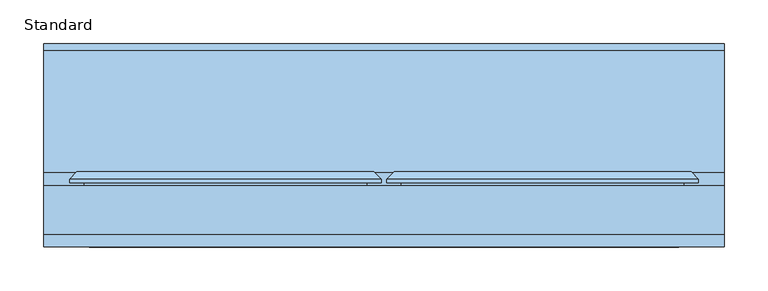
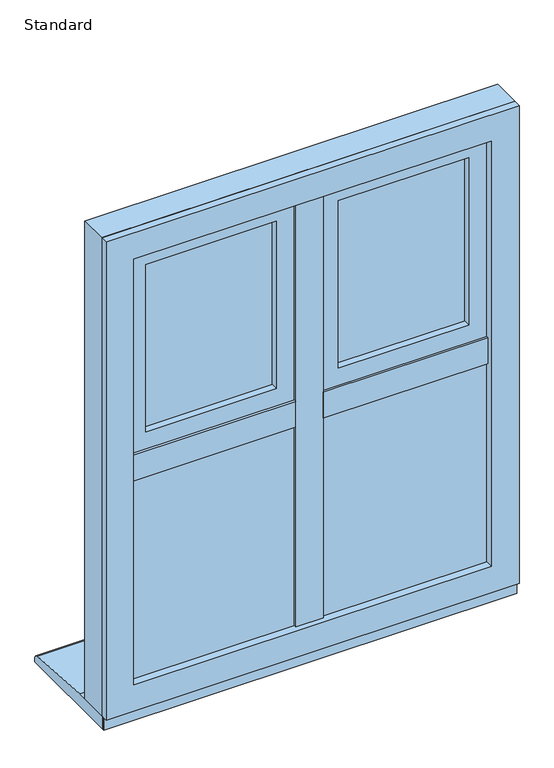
"""IFC4 building model written with IfcOpenShell, lengths in millimetres: window geometry, SMARTS_Alitherm600 : Standard."""

from ifc_helpers import new_model, si_unit, point, frame, frame_2d, origin, place, context, project, spatial, polyline, circle_curve, trimmed, segment, composite_curve, outline, extrude, faceted_brep, source, transform, mapped, element, save


def standard_6e114708(model_context):
    return source(origin(), model_context, "Body", "SolidModel", [
        extrude(outline(polyline([(-9.4, 102.8298432), (9.4, 102.8298432), (9.4, 47.2458572), (-9.4, 47.2458572), (-9.4, 102.8298432)])), frame((0.0, 0.0, 670.8979117), z_axis=(0.0, 0.0, 1.0), x_axis=(1.0, 0.0, 0.0)), (0.0, 0.0, 1.0), 883.2041766),
        extrude(outline(polyline([(-25.9020883, 47.2458572), (25.9020883, 47.2458572), (25.9020883, 43.2798432), (-25.9020883, 43.2798432), (-25.9020883, 47.2458572)])), frame((0.0, 0.0, 687.4), z_axis=(0.0, 0.0, 1.0), x_axis=(1.0, 0.0, 0.0)), (0.0, 0.0, 1.0), 850.2),
        extrude(outline(polyline([(-9.4979117, 102.8298432), (-9.4979117, 47.2458572), (-354.1020883, 47.2458572), (-354.1020883, 102.8298432), (-9.4979117, 102.8298432)])), frame((0.0, 0.0, 1103.1), z_axis=(0.0, 0.0, 1.0), x_axis=(1.0, 0.0, 0.0)), (0.0, 0.0, 1.0), 18.8),
        extrude(outline(polyline([(-26.0, 47.2458572), (-26.0, 43.2798432), (-337.6, 43.2798432), (-337.6, 47.2458572), (-26.0, 47.2458572)])), frame((0.0, 0.0, 1086.5979117), z_axis=(0.0, 0.0, 1.0), x_axis=(1.0, 0.0, 0.0)), (0.0, 0.0, 1.0), 51.8041766),
        extrude(outline(polyline([(354.1020883, 102.8298432), (354.1020883, 47.2458572), (9.4979117, 47.2458572), (9.4979117, 102.8298432), (354.1020883, 102.8298432)])), frame((0.0, 0.0, 1103.1), z_axis=(0.0, 0.0, 1.0), x_axis=(1.0, 0.0, 0.0)), (0.0, 0.0, 1.0), 18.8),
        extrude(outline(polyline([(337.6, 47.2458572), (337.6, 43.2798432), (26.0, 43.2798432), (26.0, 47.2458572), (337.6, 47.2458572)])), frame((0.0, 0.0, 1086.5979117), z_axis=(0.0, 0.0, 1.0), x_axis=(1.0, 0.0, 0.0)), (0.0, 0.0, 1.0), 51.8041766),
        extrude(outline(polyline([(-352.6, 77.7798432), (-11.0, 77.7798432), (-11.0, 73.7798432), (-352.6, 73.7798432), (-352.6, 77.7798432)])), frame((0.0, 0.0, 672.4), z_axis=(0.0, 0.0, 1.0), x_axis=(1.0, 0.0, 0.0)), (0.0, 0.0, 1.0), 429.1),
        extrude(outline(polyline([(-352.6, 57.7798432), (-11.0, 57.7798432), (-11.0, 53.7798432), (-352.6, 53.7798432), (-352.6, 57.7798432)])), frame((0.0, 0.0, 672.4), z_axis=(0.0, 0.0, 1.0), x_axis=(1.0, 0.0, 0.0)), (0.0, 0.0, 1.0), 429.1),
        extrude(outline(polyline([(1101.5, -352.6), (672.4, -352.6), (672.4, -11.0), (1101.5, -11.0), (1101.5, -352.6)]), holes=[polyline([(1091.5, -21.0), (682.4, -21.0), (682.4, -342.6), (1091.5, -342.6), (1091.5, -21.0)])]), frame((0.0, 57.7798432, 0.0), z_axis=(0.0, 1.0, 0.0), x_axis=(0.0, 0.0, 1.0)), (0.0, 0.0, 1.0), 16.0),
        faceted_brep([(-349.4160653, 102.7798432, 1098.3160653), (-337.2339746, 81.6798432, 1086.1339746), (-337.2339746, 81.6798432, 687.7660254), (-349.4160653, 102.7798432, 675.5839347), (-26.3660254, 81.6798432, 687.7660254), (-14.1839347, 102.7798432, 675.5839347), (-26.3660254, 81.6798432, 1086.1339746), (-14.1839347, 102.7798432, 1098.3160653), (-9.5, 81.6798432, 1103.0), (-9.5, 102.7798432, 1103.0), (-354.1, 102.7798432, 1103.0), (-354.1, 81.6798432, 1103.0), (-354.1, 102.7798432, 670.9), (-354.1, 81.6798432, 670.9), (-9.5, 102.7798432, 670.9), (-9.5, 81.6798432, 670.9)], [[[0, 1, 2, 3]], [[3, 2, 4, 5]], [[5, 4, 6, 7]], [[7, 6, 1, 0]], [[8, 9, 10, 11]], [[11, 10, 12, 13]], [[13, 12, 14, 15]], [[9, 14, 12, 10], [0, 3, 5, 7]], [[15, 14, 9, 8]], [[11, 13, 15, 8], [6, 4, 2, 1]]]),
        extrude(outline(polyline([(1516.6, -316.6), (1159.5, -316.6), (1159.5, -47.0), (1516.6, -47.0), (1516.6, -316.6)]), holes=[polyline([(1506.6, -57.0), (1169.5, -57.0), (1169.5, -306.6), (1506.6, -306.6), (1506.6, -57.0)])]), frame((0.0, 72.3211351, 0.0), z_axis=(0.0, 1.0, 0.0), x_axis=(0.0, 0.0, 1.0)), (0.0, 0.0, 1.0), 16.0),
        extrude(outline(polyline([(-316.6, 92.3211351), (-47.0, 92.3211351), (-47.0, 88.3211351), (-316.6, 88.3211351), (-316.6, 92.3211351)])), frame((0.0, 0.0, 1159.5), z_axis=(0.0, 0.0, 1.0), x_axis=(1.0, 0.0, 0.0)), (0.0, 0.0, 1.0), 357.1),
        extrude(outline(polyline([(-316.6, 72.3211351), (-47.0, 72.3211351), (-47.0, 68.3211351), (-316.6, 68.3211351), (-316.6, 72.3211351)])), frame((0.0, 0.0, 1159.5), z_axis=(0.0, 0.0, 1.0), x_axis=(1.0, 0.0, 0.0)), (0.0, 0.0, 1.0), 357.1),
        faceted_brep([(-46.6778853, 118.8818325, 1516.9221147), (-58.859976, 97.7818325, 1504.740024), (-304.740024, 97.7818325, 1504.740024), (-316.9221147, 118.8818325, 1516.9221147), (-41.9939506, 97.7818325, 1521.6060494), (-41.9939506, 118.8818325, 1521.6060494), (-321.6060494, 118.8818325, 1521.6060494), (-321.6060494, 97.7818325, 1521.6060494), (-304.740024, 97.7818325, 1171.359976), (-316.9221147, 118.8818325, 1159.1778853), (-321.6060494, 118.8818325, 1154.4939506), (-321.6060494, 97.7818325, 1154.4939506), (-58.859976, 97.7818325, 1171.359976), (-46.6778853, 118.8818325, 1159.1778853), (-41.9939506, 118.8818325, 1154.4939506), (-41.9939506, 97.7818325, 1154.4939506)], [[[0, 1, 2, 3]], [[4, 5, 6, 7]], [[3, 2, 8, 9]], [[7, 6, 10, 11]], [[9, 8, 12, 13]], [[11, 10, 14, 15]], [[13, 12, 1, 0]], [[5, 14, 10, 6], [3, 9, 13, 0]], [[15, 14, 5, 4]], [[7, 11, 15, 4], [1, 12, 8, 2]]]),
        extrude(outline(polyline([(1132.652908, -343.447092), (1132.652908, -20.152908), (1543.447092, -20.152908), (1543.447092, -343.447092), (1132.652908, -343.447092)]), holes=[polyline([(1505.1, -305.1), (1505.1, -58.5), (1171.0, -58.5), (1171.0, -305.1), (1505.1, -305.1)])]), frame((0.0, 50.2798432, 0.0), z_axis=(0.0, 1.0, 0.0), x_axis=(0.0, 0.0, 1.0)), (0.0, 0.0, 1.0), 13.0853156),
        faceted_brep([(-321.6060494, 118.8818325, 1521.6060494), (-321.6060494, 63.3651588, 1521.6060494), (-321.6060494, 63.3651588, 1154.4939506), (-321.6060494, 118.8818325, 1154.4939506), (-41.9939506, 63.3651588, 1154.4939506), (-41.9939506, 118.8818325, 1154.4939506), (-41.9939506, 63.3651588, 1521.6060494), (-41.9939506, 118.8818325, 1521.6060494), (-360.3358988, 106.2818325, 1560.3358988), (-360.3358988, 110.3519831, 1560.3358988), (-360.3358988, 110.3519831, 1115.7641012), (-360.3358988, 106.2818325, 1115.7641012), (-3.2641012, 110.3519831, 1115.7641012), (-3.2641012, 106.2818325, 1115.7641012), (-3.2641012, 110.3519831, 1560.3358988), (-3.2641012, 106.2818325, 1560.3358988), (-343.7467657, 106.2818325, 1543.7467657), (-19.8532343, 106.2818325, 1543.7467657), (-19.8532343, 106.2818325, 1132.3532343), (-343.7467657, 106.2818325, 1132.3532343), (-351.8060494, 118.8818325, 1551.8060494), (-11.7939506, 118.8818325, 1551.8060494), (-11.7939506, 118.8818325, 1124.2939506), (-351.8060494, 118.8818325, 1124.2939506), (-343.7467657, 63.3651588, 1543.7467657), (-343.7467657, 63.3651588, 1132.3532343), (-19.8532343, 63.3651588, 1132.3532343), (-19.8532343, 63.3651588, 1543.7467657)], [[[0, 1, 2, 3]], [[3, 2, 4, 5]], [[5, 4, 6, 7]], [[7, 6, 1, 0]], [[8, 9, 10, 11]], [[11, 10, 12, 13]], [[13, 12, 14, 15]], [[11, 13, 15, 8], [16, 17, 18, 19]], [[15, 14, 9, 8]], [[20, 21, 22, 23], [3, 5, 7, 0]], [[24, 16, 19, 25]], [[25, 19, 18, 26]], [[26, 18, 17, 27]], [[25, 26, 27, 24], [1, 6, 4, 2]], [[27, 17, 16, 24]], [[9, 20, 23, 10]], [[10, 23, 22, 12]], [[12, 22, 21, 14]], [[14, 21, 20, 9]]]),
        extrude(outline(polyline([(11.0, 77.7798432), (352.6, 77.7798432), (352.6, 73.7798432), (11.0, 73.7798432), (11.0, 77.7798432)])), frame((0.0, 0.0, 672.4), z_axis=(0.0, 0.0, 1.0), x_axis=(1.0, 0.0, 0.0)), (0.0, 0.0, 1.0), 429.1),
        extrude(outline(polyline([(11.0, 57.7798432), (352.6, 57.7798432), (352.6, 53.7798432), (11.0, 53.7798432), (11.0, 57.7798432)])), frame((0.0, 0.0, 672.4), z_axis=(0.0, 0.0, 1.0), x_axis=(1.0, 0.0, 0.0)), (0.0, 0.0, 1.0), 429.1),
        extrude(outline(polyline([(1101.5, 11.0), (672.4, 11.0), (672.4, 352.6), (1101.5, 352.6), (1101.5, 11.0)]), holes=[polyline([(1091.5, 342.6), (682.4, 342.6), (682.4, 21.0), (1091.5, 21.0), (1091.5, 342.6)])]), frame((0.0, 57.7798432, 0.0), z_axis=(0.0, 1.0, 0.0), x_axis=(0.0, 0.0, 1.0)), (0.0, 0.0, 1.0), 16.0),
        faceted_brep([(14.1839347, 102.7798432, 1098.3160653), (26.3660254, 81.6798432, 1086.1339746), (26.3660254, 81.6798432, 687.7660254), (14.1839347, 102.7798432, 675.5839347), (337.2339746, 81.6798432, 687.7660254), (349.4160653, 102.7798432, 675.5839347), (337.2339746, 81.6798432, 1086.1339746), (349.4160653, 102.7798432, 1098.3160653), (354.1, 81.6798432, 1103.0), (354.1, 102.7798432, 1103.0), (9.5, 102.7798432, 1103.0), (9.5, 81.6798432, 1103.0), (9.5, 102.7798432, 670.9), (9.5, 81.6798432, 670.9), (354.1, 102.7798432, 670.9), (354.1, 81.6798432, 670.9)], [[[0, 1, 2, 3]], [[3, 2, 4, 5]], [[5, 4, 6, 7]], [[7, 6, 1, 0]], [[8, 9, 10, 11]], [[11, 10, 12, 13]], [[13, 12, 14, 15]], [[9, 14, 12, 10], [0, 3, 5, 7]], [[15, 14, 9, 8]], [[11, 13, 15, 8], [6, 4, 2, 1]]]),
        extrude(outline(polyline([(1590.0, 390.0), (1590.0, -390.0), (635.0, -390.0), (635.0, 390.0), (1590.0, 390.0)]), holes=[polyline([(670.85, 354.15), (670.85, -354.15), (1554.15, -354.15), (1554.15, 354.15), (670.85, 354.15)])]), frame((0.0, 47.2798427, 0.0), z_axis=(0.0, 1.0, 0.0), x_axis=(0.0, 0.0, 1.0)), (0.0, 0.0, 1.0), 55.5500006),
        extrude(outline(polyline([(1590.0, 390.0), (1590.0, -390.0), (635.0, -390.0), (635.0, 390.0), (1590.0, 390.0)]), holes=[polyline([(687.35, 337.65), (687.35, -337.65), (1537.65, -337.65), (1537.65, 337.65), (687.35, 337.65)])]), frame((0.0, 32.8298432, 0.0), z_axis=(0.0, 1.0, 0.0), x_axis=(0.0, 0.0, 1.0)), (0.0, 0.0, 1.0), 14.4499994),
        extrude(outline(polyline([(1516.6, 47.0), (1159.5, 47.0), (1159.5, 316.6), (1516.6, 316.6), (1516.6, 47.0)]), holes=[polyline([(1506.6, 306.6), (1169.5, 306.6), (1169.5, 57.0), (1506.6, 57.0), (1506.6, 306.6)])]), frame((0.0, 72.3211351, 0.0), z_axis=(0.0, 1.0, 0.0), x_axis=(0.0, 0.0, 1.0)), (0.0, 0.0, 1.0), 16.0),
        extrude(outline(polyline([(47.0, 92.3211351), (316.6, 92.3211351), (316.6, 88.3211351), (47.0, 88.3211351), (47.0, 92.3211351)])), frame((0.0, 0.0, 1159.5), z_axis=(0.0, 0.0, 1.0), x_axis=(1.0, 0.0, 0.0)), (0.0, 0.0, 1.0), 357.1),
        extrude(outline(polyline([(47.0, 72.3211351), (316.6, 72.3211351), (316.6, 68.3211351), (47.0, 68.3211351), (47.0, 72.3211351)])), frame((0.0, 0.0, 1159.5), z_axis=(0.0, 0.0, 1.0), x_axis=(1.0, 0.0, 0.0)), (0.0, 0.0, 1.0), 357.1),
        faceted_brep([(316.9221147, 118.8818325, 1516.9221147), (304.740024, 97.7818325, 1504.740024), (58.859976, 97.7818325, 1504.740024), (46.6778853, 118.8818325, 1516.9221147), (321.6060494, 97.7818325, 1521.6060494), (321.6060494, 118.8818325, 1521.6060494), (41.9939506, 118.8818325, 1521.6060494), (41.9939506, 97.7818325, 1521.6060494), (58.859976, 97.7818325, 1171.359976), (46.6778853, 118.8818325, 1159.1778853), (41.9939506, 118.8818325, 1154.4939506), (41.9939506, 97.7818325, 1154.4939506), (304.740024, 97.7818325, 1171.359976), (316.9221147, 118.8818325, 1159.1778853), (321.6060494, 118.8818325, 1154.4939506), (321.6060494, 97.7818325, 1154.4939506)], [[[0, 1, 2, 3]], [[4, 5, 6, 7]], [[3, 2, 8, 9]], [[7, 6, 10, 11]], [[9, 8, 12, 13]], [[11, 10, 14, 15]], [[13, 12, 1, 0]], [[5, 14, 10, 6], [3, 9, 13, 0]], [[15, 14, 5, 4]], [[7, 11, 15, 4], [1, 12, 8, 2]]]),
        extrude(outline(polyline([(1132.652908, 20.152908), (1132.652908, 343.447092), (1543.447092, 343.447092), (1543.447092, 20.152908), (1132.652908, 20.152908)]), holes=[polyline([(1505.1, 58.5), (1505.1, 305.1), (1171.0, 305.1), (1171.0, 58.5), (1505.1, 58.5)])]), frame((0.0, 50.2798432, 0.0), z_axis=(0.0, 1.0, 0.0), x_axis=(0.0, 0.0, 1.0)), (0.0, 0.0, 1.0), 13.0853156),
        faceted_brep([(41.9939506, 118.8818325, 1521.6060494), (41.9939506, 63.3651588, 1521.6060494), (41.9939506, 63.3651588, 1154.4939506), (41.9939506, 118.8818325, 1154.4939506), (321.6060494, 63.3651588, 1154.4939506), (321.6060494, 118.8818325, 1154.4939506), (321.6060494, 63.3651588, 1521.6060494), (321.6060494, 118.8818325, 1521.6060494), (3.2641012, 106.2818325, 1560.3358988), (3.2641012, 110.3519831, 1560.3358988), (3.2641012, 110.3519831, 1115.7641012), (3.2641012, 106.2818325, 1115.7641012), (360.3358988, 110.3519831, 1115.7641012), (360.3358988, 106.2818325, 1115.7641012), (360.3358988, 110.3519831, 1560.3358988), (360.3358988, 106.2818325, 1560.3358988), (19.8532343, 106.2818325, 1543.7467657), (343.7467657, 106.2818325, 1543.7467657), (343.7467657, 106.2818325, 1132.3532343), (19.8532343, 106.2818325, 1132.3532343), (11.7939506, 118.8818325, 1551.8060494), (351.8060494, 118.8818325, 1551.8060494), (351.8060494, 118.8818325, 1124.2939506), (11.7939506, 118.8818325, 1124.2939506), (19.8532343, 63.3651588, 1543.7467657), (19.8532343, 63.3651588, 1132.3532343), (343.7467657, 63.3651588, 1132.3532343), (343.7467657, 63.3651588, 1543.7467657)], [[[0, 1, 2, 3]], [[3, 2, 4, 5]], [[5, 4, 6, 7]], [[7, 6, 1, 0]], [[8, 9, 10, 11]], [[11, 10, 12, 13]], [[13, 12, 14, 15]], [[11, 13, 15, 8], [16, 17, 18, 19]], [[15, 14, 9, 8]], [[20, 21, 22, 23], [3, 5, 7, 0]], [[24, 16, 19, 25]], [[25, 19, 18, 26]], [[26, 18, 17, 27]], [[25, 26, 27, 24], [1, 6, 4, 2]], [[27, 17, 16, 24]], [[9, 20, 23, 10]], [[10, 23, 22, 12]], [[12, 22, 21, 14]], [[14, 21, 20, 9]]]),
        extrude(outline(polyline([(390.0, 43.2798432), (390.0, 40.7798432), (-390.0, 40.7798432), (-390.0, 43.2798432), (390.0, 43.2798432)])), frame((0.0, 0.0, 610.0), z_axis=(0.0, 0.0, 1.0), x_axis=(1.0, 0.0, 0.0)), (0.0, 0.0, 1.0), 31.0),
        extrude(outline(composite_curve([segment(polyline([(265.7798432, 610.0), (43.2798432, 610.0), (43.2798432, 635.0), (118.7798432, 635.0), (258.4770891, 625.9276664)]), True, "CONTINUOUS"), segment(trimmed(circle_curve(frame_2d((257.7798432, 617.9581088)), 8.0), [point((258.4770891, 625.9276664))], [point((265.7798432, 617.9581088))], False, "CARTESIAN"), True, "CONTINUOUS"), segment(polyline([(265.7798432, 617.9581088), (265.7798432, 610.0)]), True, "CONTINUOUS")], self_intersect=False)), frame((-390.0, 0.0, 0.0), z_axis=(1.0, 0.0, 0.0), x_axis=(0.0, 1.0, 0.0)), (0.0, 0.0, 1.0), 780.0),
    ])


if __name__ == "__main__":
    model = new_model("IFC4")
    model_context = context("Model", 3, world=origin())
    ifc_project = project(units=[si_unit("LENGTHUNIT", "METRE", prefix="MILLI")], contexts=[model_context])
    site = spatial("IfcSite", under=ifc_project)
    building = spatial("IfcBuilding", under=site)
    placement = place(None, origin())
    standard_shape = standard_6e114708(model_context)
    element("IfcWindow", 1, ObjectType="SMARTS_Alitherm600 : Standard", at=placement, inside=building, context=model_context, shape_type="MappedRepresentation", body=[
        mapped(standard_shape, transform((0.0, 0.0, 0.0), x_axis=(1.0, 0.0, 0.0), y_axis=(0.0, 1.0, 0.0), z_axis=(0.0, 0.0, 1.0))),
    ])
    save(model, "model.ifc")
